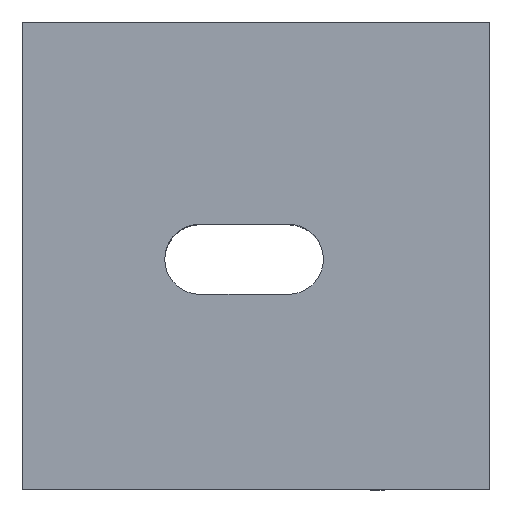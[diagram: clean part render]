
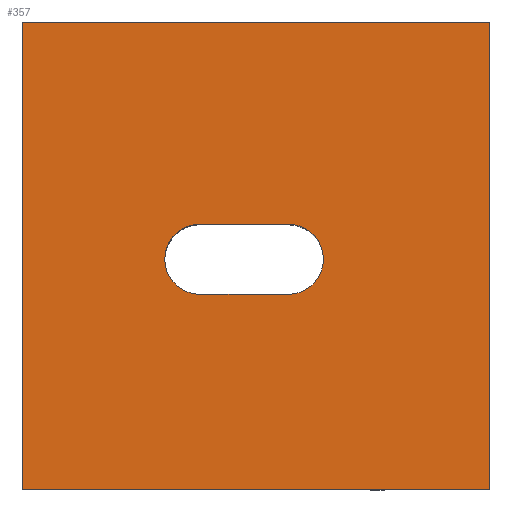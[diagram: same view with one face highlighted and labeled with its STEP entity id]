
A CAD part, top view. The second image highlights one B-rep face of the part: STEP entity #357.
In plain terms, the highlighted planar face has unit normal (0, 0, 1).
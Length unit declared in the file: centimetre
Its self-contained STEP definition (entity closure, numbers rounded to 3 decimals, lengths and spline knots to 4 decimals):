
#1 = FACE_BOUND ( 'NONE', #868, .T. ) ;
#3 = EDGE_CURVE ( 'NONE', #703, #530, #135, .T. ) ;
#7 = AXIS2_PLACEMENT_3D ( 'NONE', #369, #314, #637 ) ;
#9 = VECTOR ( 'NONE', #335, 100. ) ;
#22 = ORIENTED_EDGE ( 'NONE', *, *, #728, .T. ) ;
#25 = DIRECTION ( 'NONE',  ( 1., 0., 0. ) ) ;
#31 = VERTEX_POINT ( 'NONE', #647 ) ;
#39 = VECTOR ( 'NONE', #264, 100. ) ;
#67 = ORIENTED_EDGE ( 'NONE', *, *, #142, .F. ) ;
#95 = ORIENTED_EDGE ( 'NONE', *, *, #3, .F. ) ;
#110 = EDGE_CURVE ( 'NONE', #591, #789, #650, .T. ) ;
#129 = CARTESIAN_POINT ( 'NONE',  ( 0., 0., 1000. ) ) ;
#135 = CIRCLE ( 'NONE', #7, 75.0876 ) ;
#142 = EDGE_CURVE ( 'NONE', #789, #703, #425, .T. ) ;
#148 = LINE ( 'NONE', #767, #556 ) ;
#193 = ORIENTED_EDGE ( 'NONE', *, *, #313, .F. ) ;
#196 = DIRECTION ( 'NONE',  ( 1., 0., 0. ) ) ;
#198 = PLANE ( 'NONE',  #527 ) ;
#199 = VERTEX_POINT ( 'NONE', #642 ) ;
#234 = ORIENTED_EDGE ( 'NONE', *, *, #634, .F. ) ;
#238 = CARTESIAN_POINT ( 'NONE',  ( 379.7828, 417.1155, 1000. ) ) ;
#264 = DIRECTION ( 'NONE',  ( 0., -1., 0. ) ) ;
#267 = LINE ( 'NONE', #865, #39 ) ;
#272 = DIRECTION ( 'NONE',  ( 0., 0., 1. ) ) ;
#278 = AXIS2_PLACEMENT_3D ( 'NONE', #414, #745, #405 ) ;
#305 = CARTESIAN_POINT ( 'NONE',  ( 1000., 1000., 1000. ) ) ;
#313 = EDGE_CURVE ( 'NONE', #199, #591, #577, .T. ) ;
#314 = DIRECTION ( 'NONE',  ( 0., 0., 1. ) ) ;
#323 = EDGE_CURVE ( 'NONE', #31, #780, #681, .T. ) ;
#325 = LINE ( 'NONE', #521, #408 ) ;
#335 = DIRECTION ( 'NONE',  ( 0., 1., 0. ) ) ;
#337 = CARTESIAN_POINT ( 'NONE',  ( 569.2457, 567.2907, 1000. ) ) ;
#341 = ORIENTED_EDGE ( 'NONE', *, *, #323, .T. ) ;
#347 = EDGE_CURVE ( 'NONE', #506, #739, #267, .T. ) ;
#353 = DIRECTION ( 'NONE',  ( -1., 0., 0. ) ) ;
#355 = DIRECTION ( 'NONE',  ( 1., 0., 0. ) ) ;
#357 = ADVANCED_FACE ( 'NONE', ( #1, #529 ), #198, .T. ) ;
#358 = CARTESIAN_POINT ( 'NONE',  ( 644.3333, 492.2031, 1000. ) ) ;
#366 = CARTESIAN_POINT ( 'NONE',  ( 379.7828, 417.1155, 1000. ) ) ;
#369 = CARTESIAN_POINT ( 'NONE',  ( 379.7828, 492.2031, 1000. ) ) ;
#405 = DIRECTION ( 'NONE',  ( 1., 0., 0. ) ) ;
#408 = VECTOR ( 'NONE', #196, 100. ) ;
#414 = CARTESIAN_POINT ( 'NONE',  ( 569.2457, 492.2031, 1000. ) ) ;
#425 = LINE ( 'NONE', #337, #589 ) ;
#443 = CARTESIAN_POINT ( 'NONE',  ( 0., 0., 1000. ) ) ;
#472 = AXIS2_PLACEMENT_3D ( 'NONE', #683, #675, #355 ) ;
#491 = LINE ( 'NONE', #366, #587 ) ;
#506 = VERTEX_POINT ( 'NONE', #822 ) ;
#521 = CARTESIAN_POINT ( 'NONE',  ( 0., 0., 1000. ) ) ;
#527 = AXIS2_PLACEMENT_3D ( 'NONE', #129, #272, #538 ) ;
#529 = FACE_OUTER_BOUND ( 'NONE', #625, .T. ) ;
#530 = VERTEX_POINT ( 'NONE', #238 ) ;
#538 = DIRECTION ( 'NONE',  ( 1., 0., 0. ) ) ;
#554 = ORIENTED_EDGE ( 'NONE', *, *, #840, .T. ) ;
#556 = VECTOR ( 'NONE', #353, 100. ) ;
#572 = CARTESIAN_POINT ( 'NONE',  ( 569.2457, 567.2907, 1000. ) ) ;
#577 = CIRCLE ( 'NONE', #278, 75.0876 ) ;
#587 = VECTOR ( 'NONE', #25, 100. ) ;
#589 = VECTOR ( 'NONE', #605, 100. ) ;
#591 = VERTEX_POINT ( 'NONE', #358 ) ;
#605 = DIRECTION ( 'NONE',  ( -1., 0., 0. ) ) ;
#611 = ORIENTED_EDGE ( 'NONE', *, *, #347, .T. ) ;
#614 = CARTESIAN_POINT ( 'NONE',  ( 1000., 1000., 1000. ) ) ;
#625 = EDGE_LOOP ( 'NONE', ( #611, #554, #341, #22 ) ) ;
#634 = EDGE_CURVE ( 'NONE', #530, #199, #491, .T. ) ;
#637 = DIRECTION ( 'NONE',  ( 1., 0., 0. ) ) ;
#642 = CARTESIAN_POINT ( 'NONE',  ( 569.2457, 417.1155, 1000. ) ) ;
#647 = CARTESIAN_POINT ( 'NONE',  ( 1000., 0., 1000. ) ) ;
#650 = CIRCLE ( 'NONE', #472, 75.0876 ) ;
#675 = DIRECTION ( 'NONE',  ( 0., 0., 1. ) ) ;
#681 = LINE ( 'NONE', #614, #9 ) ;
#683 = CARTESIAN_POINT ( 'NONE',  ( 569.2457, 492.2031, 1000. ) ) ;
#703 = VERTEX_POINT ( 'NONE', #818 ) ;
#728 = EDGE_CURVE ( 'NONE', #780, #506, #148, .T. ) ;
#739 = VERTEX_POINT ( 'NONE', #443 ) ;
#745 = DIRECTION ( 'NONE',  ( 0., 0., 1. ) ) ;
#767 = CARTESIAN_POINT ( 'NONE',  ( 0., 1000., 1000. ) ) ;
#780 = VERTEX_POINT ( 'NONE', #305 ) ;
#789 = VERTEX_POINT ( 'NONE', #572 ) ;
#818 = CARTESIAN_POINT ( 'NONE',  ( 379.7828, 567.2907, 1000. ) ) ;
#822 = CARTESIAN_POINT ( 'NONE',  ( 0., 1000., 1000. ) ) ;
#833 = ORIENTED_EDGE ( 'NONE', *, *, #110, .F. ) ;
#840 = EDGE_CURVE ( 'NONE', #739, #31, #325, .T. ) ;
#865 = CARTESIAN_POINT ( 'NONE',  ( 0., 1000., 1000. ) ) ;
#868 = EDGE_LOOP ( 'NONE', ( #95, #67, #833, #193, #234 ) ) ;
